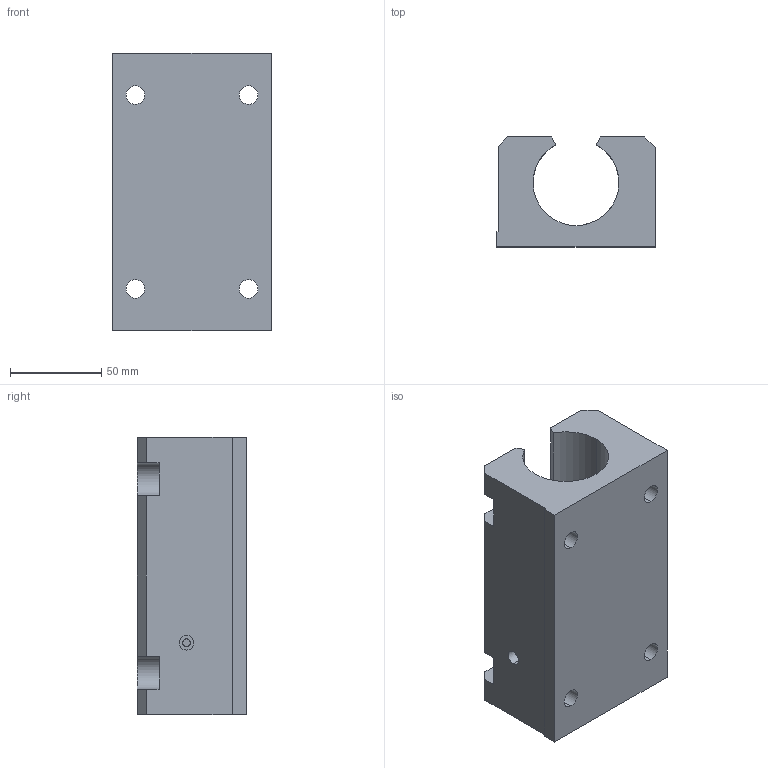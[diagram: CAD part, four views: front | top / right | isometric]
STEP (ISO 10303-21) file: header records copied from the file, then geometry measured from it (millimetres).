
FILE_DESCRIPTION (( 'STEP AP214' ), '1' );
FILE_NAME ('KTGO87-I-30.step', '2020-03-04T13:32:41', ( '' ), ( '' ), 'SwSTEP 2.0', 'SolidWorks 2019', '' );
FILE_SCHEMA (( 'AUTOMOTIVE_DESIGN' ));
Length unit declared in the file: millimetre
Products named in the file (1): KTGO87-I-30
Bounding box: 87 x 60 x 152 mm (x, y, z)
Volume: 474300.4 mm3; surface area: 75251.1 mm2
Topology: 1 solids, 1 shells, 60 faces, 170 edges, 112 vertices
Faces by surface type: plane 31, cylinder 27, cone 2
Entity records: 2320 total; most frequent: CARTESIAN_POINT 517, ORIENTED_EDGE 340, DIRECTION 330, EDGE_CURVE 170, LINE 112, VECTOR 112, VERTEX_POINT 112, AXIS2_PLACEMENT_3D 109
